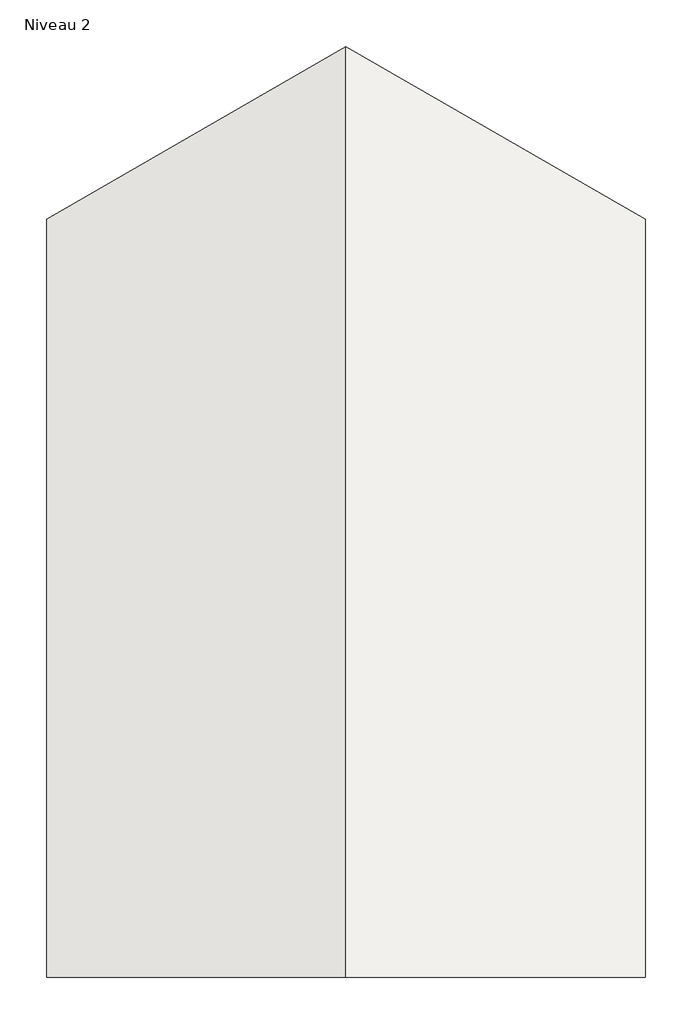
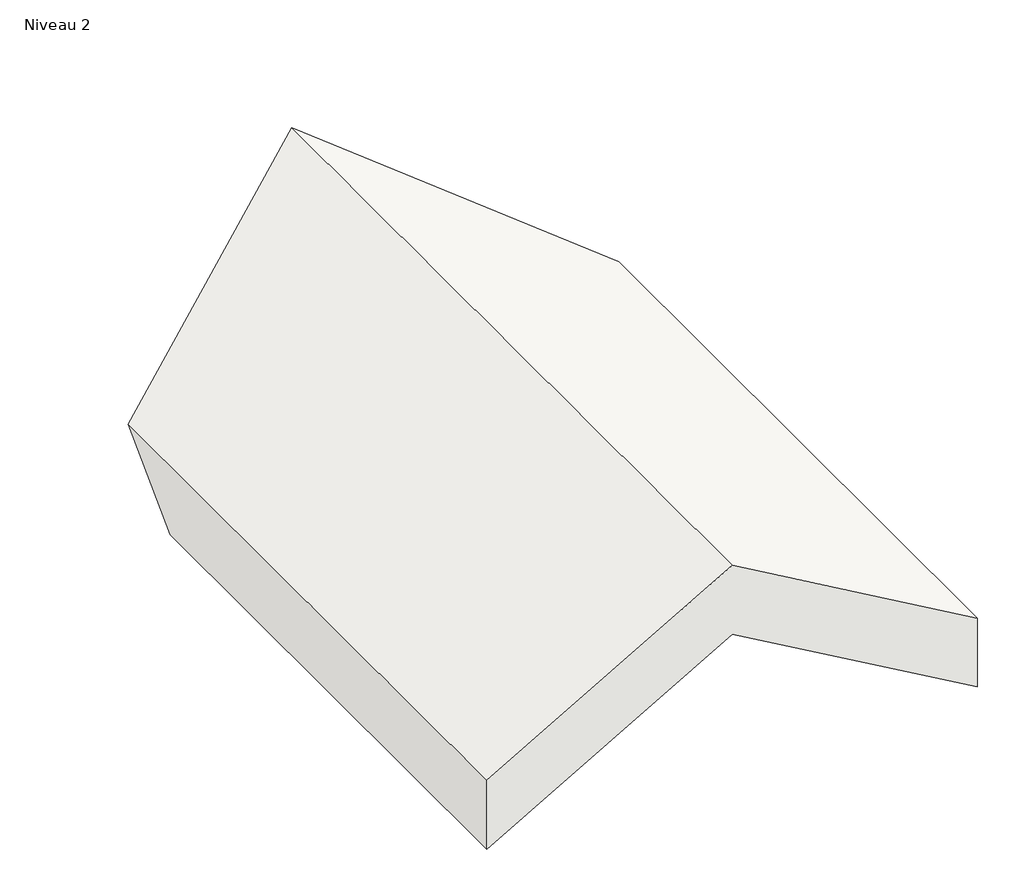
# One storey: 1 roof.
"""IFC4 building model written with IfcOpenShell, lengths in millimetres."""

from ifc_helpers import new_model, si_unit, origin, place, context, project, spatial, faceted_brep, element, save

model = new_model("IFC4")

# Units and contexts
model_context = context("Model", 3, world=origin())
ifc_project = project(units=[si_unit("LENGTHUNIT", "METRE", prefix="MILLI")], contexts=[model_context])

# Site, building, storey
site = spatial("IfcSite", under=ifc_project)
building = spatial("IfcBuilding", under=site)
storey = spatial("IfcBuildingStorey", under=building, Name="Niveau 2", Elevation=6000.0)

# Roof
placement = place(None, origin())
element("IfcRoof", 1, ObjectType="Toit - 200 mm", at=placement, inside=storey, context=model_context, shape_type="Brep", body=[
    faceted_brep([(-1138.8965534, -1701.1340917, 5257.2062428), (-1918.3194168, -1701.1340917, 5707.2062428), (-2697.7422802, -1701.1340917, 5257.2062428), (-2697.7422802, -1701.1340917, 5026.2661351), (-1918.3194168, -1701.1340917, 5476.2661351), (-1138.8965534, -1701.1340917, 5026.2661351), (-1138.8965534, 273.2294386, 5257.2062428), (-1918.3194168, 723.2294386, 5707.2062428), (-2697.7422802, 273.2294386, 5257.2062428), (-2697.7422802, 42.2893309, 5026.2661351), (-1918.3194168, 492.2893309, 5476.2661351), (-1138.8965534, 42.2893309, 5026.2661351)], [[[0, 1, 2, 3, 4, 5]], [[1, 0, 6, 7]], [[2, 1, 7, 8]], [[3, 2, 8, 9]], [[4, 3, 9, 10]], [[5, 4, 10, 11]], [[0, 5, 11, 6]], [[6, 11, 10, 9, 8, 7]]]),
])

save(model, "model.ifc")
